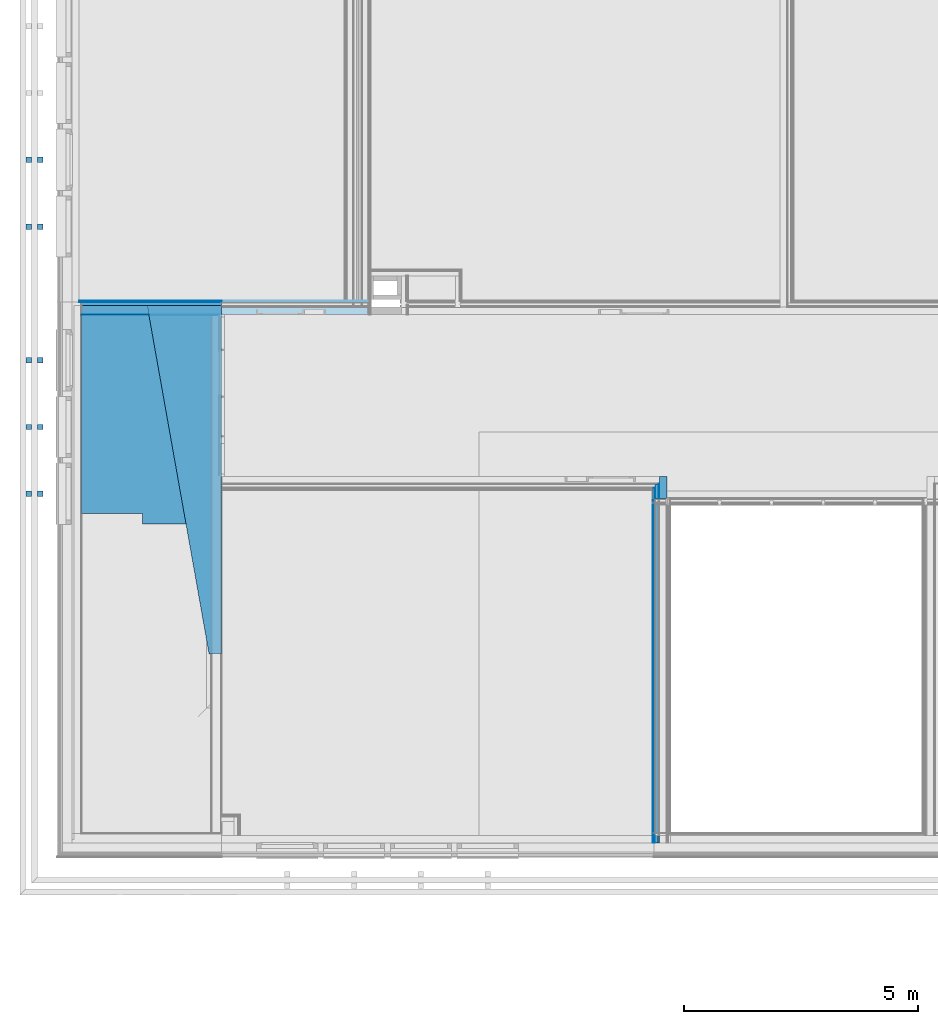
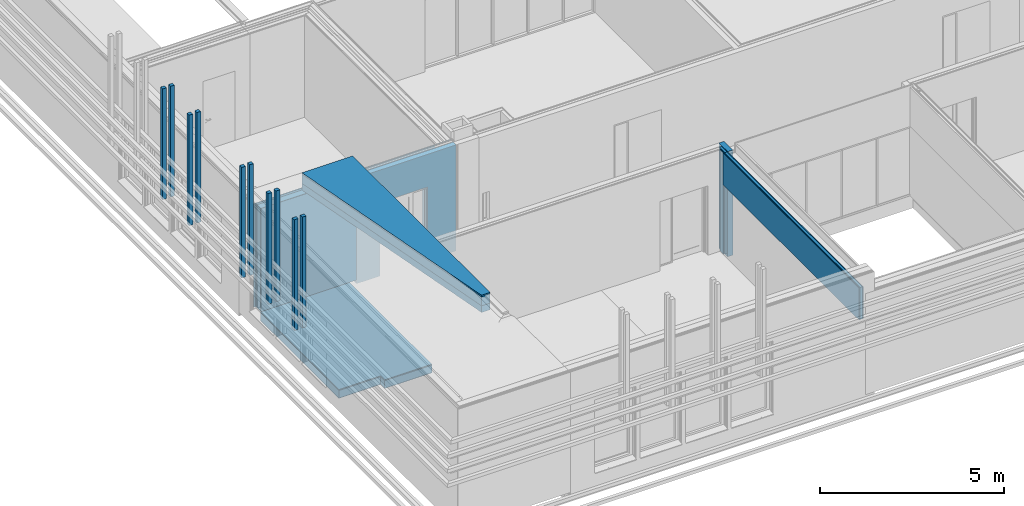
# One storey, part 82 of 139: 24 building element parts, 5 discrete accessories, 1 opening, 6 elements without a shape of their own, plus 2 elements that do not belong to this part.
"""IFC2X3 building model written with IfcOpenShell, lengths in millimetres."""

import ifcopenshell
import ifcopenshell.guid

model = None  # the IFC model being written
_history = None  # IfcOwnerHistory: only IFC2X3 demands one
_inside = {}  # id of a spatial element -> (the spatial element, [elements in it])
_under = {}  # id of a project, library or spatial element -> (it, [spatial elements below it])
_declared = {}  # id of a project -> (the project, [libraries it declares])
_typed = {}  # id of a type object -> (the type object, [elements of that type])
_made_of = {}  # id of a material, layer set ... -> (it, [elements and type objects made of it])


def new_model(schema):
    """Start an empty IFC model of exactly this schema.

    Asked for "IFC4X3", IfcOpenShell would pick the latest addendum, in which some entities
    have other attributes; the version numbers below select the first issue.
    IFC2X3 requires an IfcOwnerHistory on every rooted entity: one is made here for all.
    """
    global model, _history
    if schema == "IFC4X3":
        model = ifcopenshell.file(schema_version=(4, 3, 0, 0))
    else:
        model = ifcopenshell.file(schema=schema)
    _inside.clear()
    _under.clear()
    _declared.clear()
    _typed.clear()
    _made_of.clear()
    _history = None
    if model.schema == "IFC2X3":
        org = make("IfcOrganization", Name="unknown")
        user = make(
            "IfcPersonAndOrganization",
            ThePerson=make("IfcPerson", FamilyName="unknown"),
            TheOrganization=org,
        )
        app = make(
            "IfcApplication",
            ApplicationDeveloper=org,
            Version="unknown",
            ApplicationFullName="unknown",
            ApplicationIdentifier="unknown",
        )
        _history = make(
            "IfcOwnerHistory",
            OwningUser=user,
            OwningApplication=app,
            ChangeAction="ADDED",
            CreationDate=0,
        )
    return model


def make(cls, **values):
    """One entity of the class cls with the attributes given. An attribute that is None is left unset."""
    return model.create_entity(
        cls, **{name: value for name, value in values.items() if value is not None}
    )


def entity(cls, *values):
    """Any entity or typed value of the class cls, its attributes in the order of the schema. None: left unset."""
    e = model.create_entity(cls)
    for i, value in enumerate(values):
        if value is not None:
            e[i] = value
    return e


def rooted(cls, **values):
    """An entity with a GlobalId (a new one), such as an element, a storey or a relation."""
    return make(cls, GlobalId=ifcopenshell.guid.new(), OwnerHistory=_history, **values)


def si_unit(unit_type, name, prefix=None):
    """IfcSIUnit, for example si_unit("LENGTHUNIT", "METRE", prefix="MILLI")."""
    return make("IfcSIUnit", UnitType=unit_type, Prefix=prefix, Name=name)


def converted_unit(unit_type, name, factor, base, dimensions=None, offset=None):
    """IfcConversionBasedUnit, such as the inch: factor (a typed value) times the base unit."""
    return make(
        "IfcConversionBasedUnit"
        if offset is None
        else "IfcConversionBasedUnitWithOffset",
        ConversionOffset=offset,
        Dimensions=None
        if dimensions is None
        else entity("IfcDimensionalExponents", *dimensions),
        UnitType=unit_type,
        Name=name,
        ConversionFactor=make(
            "IfcMeasureWithUnit", ValueComponent=factor, UnitComponent=base
        ),
    )


def derived_unit(unit_type, elements):
    """IfcDerivedUnit: a product of units, each with its exponent."""
    return make(
        "IfcDerivedUnit",
        Elements=[
            make("IfcDerivedUnitElement", Unit=unit, Exponent=power)
            for unit, power in elements
        ],
        UnitType=unit_type,
    )


def money_unit(currency):
    """IfcMonetaryUnit."""
    return make("IfcMonetaryUnit", Currency=currency)


def assignment(units):
    """IfcUnitAssignment: the units of a project."""
    return None if units is None else make("IfcUnitAssignment", Units=units)


def point(xyz):
    """IfcCartesianPoint."""
    return None if xyz is None else make("IfcCartesianPoint", Coordinates=xyz)


def direction(xyz):
    """IfcDirection."""
    return None if xyz is None else make("IfcDirection", DirectionRatios=xyz)


def frame(location, z_axis=None, x_axis=None):
    """IfcAxis2Placement3D, a coordinate frame: its origin and axes. An axis left out is left unset."""
    return make(
        "IfcAxis2Placement3D",
        Location=point(location),
        Axis=direction(z_axis),
        RefDirection=direction(x_axis),
    )


def origin_with_axes():
    """The frame at (0, 0, 0) with the z axis (0, 0, 1) and the x axis (1, 0, 0) written out."""
    return frame((0.0, 0.0, 0.0), z_axis=(0.0, 0.0, 1.0), x_axis=(1.0, 0.0, 0.0))


def place(relative_to, where):
    """IfcLocalPlacement: puts the frame where relative to a parent placement (None: the world)."""
    return make(
        "IfcLocalPlacement", PlacementRelTo=relative_to, RelativePlacement=where
    )


def context(
    kind, dimensions, precision=None, world=None, true_north=None, identifier=None
):
    """IfcGeometricRepresentationContext, for example the 3D "Model" context."""
    return make(
        "IfcGeometricRepresentationContext",
        ContextIdentifier=identifier,
        ContextType=kind,
        CoordinateSpaceDimension=dimensions,
        Precision=precision,
        WorldCoordinateSystem=world,
        TrueNorth=true_north,
    )


def subcontext(parent, identifier, kind, view, scale=None):
    """IfcGeometricRepresentationSubContext, for example "Body" below "Model"."""
    return make(
        "IfcGeometricRepresentationSubContext",
        ContextIdentifier=identifier,
        ContextType=kind,
        ParentContext=parent,
        TargetScale=scale,
        TargetView=view,
    )


def project(units=None, contexts=None):
    """IfcProject with its units and contexts."""
    return rooted(
        "IfcProject",
        Name="project",
        RepresentationContexts=contexts,
        UnitsInContext=assignment(units),
    )


def spatial(cls, under=None, at=None, **own):
    """A site, building, storey or space (cls), placed at a placement, below another one or the project."""
    s = rooted(cls, ObjectPlacement=at, **own)
    if under is not None:
        _under.setdefault(under.id(), (under, []))[1].append(s)
    return s


def faces_of(points, faces, orient=None, outer=None):
    """IfcFace entities. A face is a list of loops; a loop is a list of indices into points, from 0.

    orient and outer hold one flag for each loop. By default every Orientation is true, the
    first loop of a face is its IfcFaceOuterBound and the others are IfcFaceBound.
    """
    made = []
    for i, loops in enumerate(faces):
        bounds = []
        for j, loop in enumerate(loops):
            is_outer = j == 0 if outer is None else outer[i][j]
            bounds.append(
                make(
                    "IfcFaceOuterBound" if is_outer else "IfcFaceBound",
                    Bound=make("IfcPolyLoop", Polygon=[points[k] for k in loop]),
                    Orientation=True if orient is None else orient[i][j],
                )
            )
        made.append(make("IfcFace", Bounds=bounds))
    return made


def faceted_brep(points, faces, orient=None, outer=None, voids=None):
    """IfcFacetedBrep: a solid bounded by flat faces; with voids (closed shells), ...WithVoids."""
    shared = [point(p) for p in points]
    hull = make("IfcClosedShell", CfsFaces=faces_of(shared, faces, orient, outer))
    if voids is None:
        return make("IfcFacetedBrep", Outer=hull)
    return make(
        "IfcFacetedBrepWithVoids",
        Outer=hull,
        Voids=[
            make(cls, CfsFaces=faces_of(shared, fs, o, b)) for cls, fs, o, b in voids
        ],
    )


def shape(context_of_items, identifier, shape_type, items):
    """IfcShapeRepresentation: the items that make up one representation, for example the "Body"."""
    return make(
        "IfcShapeRepresentation",
        ContextOfItems=context_of_items,
        RepresentationIdentifier=identifier,
        RepresentationType=shape_type,
        Items=items,
    )


def material(Name=None, Category=None):
    """IfcMaterial."""
    return make("IfcMaterial", Name=Name, Category=Category)


def material_list(materials):
    """IfcMaterialList."""
    return make("IfcMaterialList", Materials=materials)


def made_of(thing, what):
    """Note that an element or type object is made of a material, layer set ...; save() writes the relation."""
    if what is not None:
        _made_of.setdefault(what.id(), (what, []))[1].append(thing)
    return thing


def type_object(cls, material=None, **own):
    """A type object (cls), such as IfcWallType, which elements share."""
    return made_of(rooted(cls, **own), material)


def element(
    cls,
    number,
    at=None,
    inside=None,
    cuts=None,
    type_object=None,
    material=None,
    context=None,
    identifier="Body",
    shape_type=None,
    held_by="IfcProductDefinitionShape",
    body=None,
    shapes=None,
    **own,
):
    """One element of the class cls, such as IfcWall. Its Tag is "e" and its number.

    at: its placement. inside: the storey or other place that contains it. cuts: it is an
    opening in that element (IfcRelVoidsElement). A single representation is given by context,
    identifier, shape_type and body (its items); several are given by shapes. held_by: the class
    of the entity that holds the representations. save() writes the other relations.
    """
    e = rooted(cls, Tag="e%d" % number, ObjectPlacement=at, **own)
    if body is not None:
        shapes = [shape(context, identifier, shape_type, body)]
    if shapes is not None:
        e.Representation = make(held_by, Representations=shapes)
    if inside is not None:
        _inside.setdefault(inside.id(), (inside, []))[1].append(e)
    if cuts is not None:
        rooted(
            "IfcRelVoidsElement", RelatingBuildingElement=cuts, RelatedOpeningElement=e
        )
    if type_object is not None:
        _typed.setdefault(type_object.id(), (type_object, []))[1].append(e)
    return made_of(e, material)


def aggregate(whole, parts):
    """IfcRelAggregates: a whole, such as a stair, and the parts it consists of."""
    return rooted("IfcRelAggregates", RelatingObject=whole, RelatedObjects=parts)


def save(model, path):
    """Write the relations noted so far, then the file.

    IfcRelAggregates (storeys below a building ...), IfcRelContainedInSpatialStructure (elements
    in a storey), IfcRelDefinesByType, IfcRelAssociatesMaterial and IfcRelDeclares: one each for
    every whole, place, type object, material and project.
    """
    for whole, parts in _under.values():
        aggregate(whole, parts)
    for where, things in _inside.values():
        rooted(
            "IfcRelContainedInSpatialStructure",
            RelatedElements=things,
            RelatingStructure=where,
        )
    for kind, things in _typed.values():
        rooted("IfcRelDefinesByType", RelatedObjects=things, RelatingType=kind)
    for what, things in _made_of.values():
        rooted("IfcRelAssociatesMaterial", RelatedObjects=things, RelatingMaterial=what)
    for by, libraries in _declared.values():
        rooted("IfcRelDeclares", RelatingContext=by, RelatedDefinitions=libraries)
    model.write(path)


model = new_model("IFC2X3")

# Units and contexts
model_context = context("Model", 3, precision=0.01, world=origin_with_axes(), true_north=direction((0.0, 1.0)))
body_context = subcontext(model_context, "Body", "Model", "MODEL_VIEW")
ifc_project = project(units=[si_unit("LENGTHUNIT", "METRE", prefix="MILLI"), si_unit("AREAUNIT", "SQUARE_METRE"), si_unit("VOLUMEUNIT", "CUBIC_METRE"), converted_unit("PLANEANGLEUNIT", "DEGREE", entity("IfcPlaneAngleMeasure", 0.0174532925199), si_unit("PLANEANGLEUNIT", "RADIAN"), dimensions=[0, 0, 0, 0, 0, 0, 0]), money_unit("EUR"), converted_unit("TIMEUNIT", "Year", entity("IfcTimeMeasure", 31556926.0), si_unit("TIMEUNIT", "SECOND"), dimensions=[0, 0, 1, 0, 0, 0, 0]), si_unit("MASSUNIT", "GRAM", prefix="KILO"), si_unit("THERMODYNAMICTEMPERATUREUNIT", "DEGREE_CELSIUS"), si_unit("LUMINOUSINTENSITYUNIT", "LUMEN"), si_unit("ENERGYUNIT", "JOULE", prefix="MEGA"), derived_unit("THERMALCONDUCTANCEUNIT", [(si_unit("POWERUNIT", "WATT"), 1), (si_unit("LENGTHUNIT", "METRE"), -1), (si_unit("THERMODYNAMICTEMPERATUREUNIT", "KELVIN"), -1)]), derived_unit("SPECIFICHEATCAPACITYUNIT", [(si_unit("ENERGYUNIT", "JOULE"), 1), (si_unit("MASSUNIT", "GRAM", prefix="KILO"), -1), (si_unit("THERMODYNAMICTEMPERATUREUNIT", "KELVIN"), -1)]), derived_unit("MASSDENSITYUNIT", [(si_unit("MASSUNIT", "GRAM", prefix="KILO"), 1), (si_unit("VOLUMEUNIT", "CUBIC_METRE"), -1)])], contexts=[model_context])

# Site, building, storey
site_placement = place(None, origin_with_axes())
site = spatial("IfcSite", under=ifc_project, at=site_placement, Name="Kolde pst 67a", CompositionType="ELEMENT")
building_placement = place(site_placement, origin_with_axes())
building = spatial("IfcBuilding", under=site, at=building_placement, Name="Riigigümnaasium", CompositionType="ELEMENT")
storey_placement = place(building_placement, frame((0.0, 0.0, 4600.0), z_axis=(0.0, 0.0, 1.0), x_axis=(1.0, 0.0, 0.0)))
storey = spatial("IfcBuildingStorey", under=building, at=storey_placement, Name="2. korrus", CompositionType="ELEMENT", Elevation=4600.0)

# Discrete accessories
ifc_material_1 = material(Name="_VÄLISVIIMISTLUS - sõrmjätkatud puitprussid 120x115mm, liitekohad vähemärgatavad, Platowood sõrmjätkatud kuusk või samaväärne; eeltöödeldud tuletõkkevõõbaga, tuletundlikkus B-s1, d0, Woodsafe Exterior WFX™ või samaväärne; kinnitused vastavalt EK osale")
ifc_material_list = material_list([ifc_material_1, ifc_material_1])
discrete_accessory_type = type_object("IfcDiscreteAccessoryType", Name="1+paiksekaitse 3 370 x 115")
for number, where, z_axis, x_axis in (
    (1, (-1290.00746728, 62604.7586626, 2150.0), (0.0, 0.0, 1.0), (1.0, 0.0, 0.0)),
    (2, (-1290.00746728, 61174.7586626, 2150.0), (0.0, 0.0, 1.0), (1.0, 0.0, 0.0)),
    (3, (-1290.00746728, 58314.7586626, 2150.0), (0.0, 0.0, 1.0), (1.0, 0.0, 0.0)),
    (4, (-1290.00746728, 56884.7586626, 2150.0), (0.0, 0.0, 1.0), (1.0, 0.0, 0.0)),
    (5, (-1290.00746728, 55454.7586626, 2150.0), (0.0, 0.0, 1.0), (1.0, 0.0, 0.0)),
):
    element("IfcDiscreteAccessory", number, at=place(storey_placement, frame(where, z_axis=z_axis, x_axis=x_axis)), inside=storey, type_object=discrete_accessory_type, material=ifc_material_list, Name="Päikesevarjestus", context=body_context, shape_type="Brep", body=[
        faceted_brep([(467.0, 117.5, 0.0), (347.0, 117.5, 0.0), (347.0, 117.5, 3670.0), (467.0, 117.5, 3670.0), (467.0, 2.5, 0.0), (347.0, 2.5, 0.0), (347.0, 2.5, 3670.0), (467.0, 2.5, 3670.0)], [[[0, 1, 2, 3]], [[0, 4, 5, 1]], [[1, 5, 6, 2]], [[3, 2, 6, 7]], [[4, 0, 3, 7]], [[5, 4, 7, 6]]]),
        faceted_brep([(717.0, 117.5, 0.0), (597.0, 117.5, 0.0), (597.0, 117.5, 3670.0), (717.0, 117.5, 3670.0), (717.0, 2.5, 0.0), (597.0, 2.5, 0.0), (597.0, 2.5, 3670.0), (717.0, 2.5, 3670.0)], [[[0, 1, 2, 3]], [[0, 4, 5, 1]], [[1, 5, 6, 2]], [[3, 2, 6, 7]], [[4, 0, 3, 7]], [[5, 4, 7, 6]]]),
    ])

# Wall, building element parts
wall_type_1 = type_object("IfcWallType", Name="SS-CLT-16/1_vill75+krohv 52 dB 300", PredefinedType="NOTDEFINED")
wall_1_placement = place(storey_placement, frame((12779.9974942, 55889.9665764, -410.0), z_axis=(0.0, 0.0, 1.0), x_axis=(0.0, -1.0, 0.0)))
wall_1 = element("IfcWall", 6, at=wall_1_placement, inside=storey, type_object=wall_type_1, Name="Sisesein")
ifc_material_2 = material(Name="_KANDETARIND - CLT ristkihtliimpuit vastavalt EK osale, CLT paigaldusvuugid teibitakse ROTHOBLAAS teibiga")
building_element_part_1_placement = place(wall_1_placement, origin_with_axes())
building_element_part_1 = element("IfcBuildingElementPart", 7, at=building_element_part_1_placement, material=ifc_material_2, Name="_KANDETARIND - CLT ristkihtliimpuit vastavalt EK osale, CLT paigaldusvuugid teibitakse ROTHOBLAAS teibiga", context=body_context, shape_type="Brep", body=[
    faceted_brep([(0.0, -160.0, 3769.0), (0.0, 0.0, 3769.0), (0.0, 0.0, 280.0), (0.0, -160.0, 280.0), (475.026471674, 0.0, 3769.0), (475.026471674, -160.0, 3769.0), (475.026471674, 0.0, 280.0), (475.026471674, -160.0, 280.0)], [[[0, 1, 2, 3]], [[4, 1, 0, 5]], [[1, 4, 6, 2]], [[7, 3, 2, 6]], [[5, 0, 3, 7]], [[4, 5, 7, 6]]]),
])
ifc_material_3 = material(Name="_ÕHKVAHE")
building_element_part_2_placement = place(wall_1_placement, origin_with_axes())
building_element_part_2 = element("IfcBuildingElementPart", 8, at=building_element_part_2_placement, material=ifc_material_3, Name="_ÕHKVAHE", context=body_context, shape_type="Brep", body=[
    faceted_brep([(159.999488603, -175.0, 3769.0), (159.999532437, -160.0, 3769.0), (159.999532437, -160.0, 407.0), (159.999488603, -175.0, 407.0), (475.026471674, -160.0, 3769.0), (475.026471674, -175.0, 3769.0), (475.026471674, -160.0, 407.0), (475.026471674, -175.0, 407.0)], [[[0, 1, 2, 3]], [[4, 1, 0, 5]], [[1, 4, 6, 2]], [[7, 3, 2, 6]], [[5, 0, 3, 7]], [[4, 5, 7, 6]]]),
])
ifc_material_4 = material(Name="_KARKASS - metallkarkass CW 75/50/06 ja UW 75/40/06, samm 600, vahel mineraalvill, helineeldetegur αw = 1.0,  ISOVER ACOUSTIC 75mm või samaväärne")
building_element_part_3_placement = place(wall_1_placement, origin_with_axes())
building_element_part_3 = element("IfcBuildingElementPart", 9, at=building_element_part_3_placement, material=ifc_material_4, Name="_KARKASS - metallkarkass CW 75/50/06 ja UW 75/40/06, samm 600, vahel mineraalvill, helineeldetegur αw = 1.0,  ISOVER ACOUSTIC 75mm või samaväärne", context=body_context, shape_type="Brep", body=[
    faceted_brep([(174.999269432, -250.0, 3769.0), (174.999488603, -175.0, 3769.0), (174.999488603, -175.0, 407.0), (174.999269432, -250.0, 407.0), (475.026471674, -175.0, 3769.0), (475.026471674, -250.0, 3769.0), (475.026471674, -175.0, 407.0), (475.026471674, -250.0, 407.0)], [[[0, 1, 2, 3]], [[4, 1, 0, 5]], [[1, 4, 6, 2]], [[7, 3, 2, 6]], [[5, 0, 3, 7]], [[4, 5, 7, 6]]]),
])
ifc_material_5 = material(Name="_PLAATMATERJAL - OSB3 plaat")
building_element_part_4_placement = place(wall_1_placement, origin_with_axes())
building_element_part_4 = element("IfcBuildingElementPart", 10, at=building_element_part_4_placement, material=ifc_material_5, Name="_PLAATMATERJAL - OSB3 plaat", context=body_context, shape_type="Brep", body=[
    faceted_brep([(249.99924021, -260.0, 3769.0), (249.999269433, -250.0, 3769.0), (249.999269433, -250.0, 407.0), (249.99924021, -260.0, 407.0), (475.026471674, -250.0, 3769.0), (475.026471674, -260.0, 3769.0), (475.026471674, -250.0, 407.0), (475.026471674, -260.0, 407.0)], [[[0, 1, 2, 3]], [[4, 1, 0, 5]], [[1, 4, 6, 2]], [[7, 3, 2, 6]], [[5, 0, 3, 7]], [[4, 5, 7, 6]]]),
])
ifc_material_6 = material(Name="_PLAATMATERJAL - tuletõkkekipsplaat, Knauf Red GKF või samaväärne")
building_element_part_5_placement = place(wall_1_placement, origin_with_axes())
building_element_part_5 = element("IfcBuildingElementPart", 11, at=building_element_part_5_placement, material=ifc_material_6, Name="_PLAATMATERJAL - tuletõkkekipsplaat, Knauf Red GKF või samaväärne", context=body_context, shape_type="Brep", body=[
    faceted_brep([(259.999196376, -275.0, 3769.0), (259.99924021, -260.0, 3769.0), (259.99924021, -260.0, 407.0), (259.999196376, -275.0, 407.0), (475.026471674, -260.0, 3769.0), (475.026471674, -275.0, 3769.0), (475.026471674, -260.0, 407.0), (475.026471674, -275.0, 407.0)], [[[0, 1, 2, 3]], [[4, 1, 0, 5]], [[1, 4, 6, 2]], [[7, 3, 2, 6]], [[5, 0, 3, 7]], [[4, 5, 7, 6]]]),
])
building_element_part_6_placement = place(wall_1_placement, origin_with_axes())
building_element_part_6 = element("IfcBuildingElementPart", 12, at=building_element_part_6_placement, material=ifc_material_6, Name="_PLAATMATERJAL - tuletõkkekipsplaat, Knauf Red GKF või samaväärne", context=body_context, shape_type="Brep", body=[
    faceted_brep([(274.999152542, -290.0, 3769.0), (274.999196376, -275.0, 3769.0), (274.999196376, -275.0, 407.0), (274.999152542, -290.0, 407.0), (475.026471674, -275.0, 3769.0), (475.026471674, -290.0, 3769.0), (475.026471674, -275.0, 407.0), (475.026471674, -290.0, 407.0)], [[[0, 1, 2, 3]], [[4, 1, 0, 5]], [[1, 4, 6, 2]], [[7, 3, 2, 6]], [[5, 0, 3, 7]], [[4, 5, 7, 6]]]),
])
aggregate(wall_1, [building_element_part_1, building_element_part_2, building_element_part_3, building_element_part_4, building_element_part_5, building_element_part_6])

wall_type_2 = type_object("IfcWallType", Name="SS-RB-20/11_kipsil krohv+roov60 +krohv 310", PredefinedType="NOTDEFINED")
wall_2_placement = place(storey_placement, frame((3250.03768339, 59349.9979478, 0.0), z_axis=(0.0, 0.0, 1.0), x_axis=(-1.0, 0.0, 0.0)))
wall_2 = element("IfcWall", 13, at=wall_2_placement, inside=storey, type_object=wall_type_2, Name="Sisesein")
ifc_material_7 = material(Name="_VIIMISTLUSKIHT - viimistlus vastavalt SA osale")
building_element_part_7_placement = place(wall_2_placement, origin_with_axes())
building_element_part_7 = element("IfcBuildingElementPart", 14, at=building_element_part_7_placement, material=ifc_material_7, Name="_VIIMISTLUSKIHT - viimistlus vastavalt SA osale", context=body_context, shape_type="Brep", body=[
    faceted_brep([(2999.98132511, 0.0, 0.0), (2999.98132511, 0.0, 3420.0), (0.0, 0.0, 3420.0), (0.0, 0.0, 0.0), (2999.98132511, 10.0, 3420.0), (2999.98132511, 10.0, 0.0), (0.0, 10.0, 3420.0), (0.0, 10.0, 0.0)], [[[0, 1, 2, 3]], [[4, 1, 0, 5]], [[1, 4, 6, 2]], [[6, 7, 3, 2]], [[5, 0, 3, 7]], [[4, 5, 7, 6]]]),
])
ifc_material_8 = material(Name="_KANDETARIND - monteeritav raudbetoon vastavalt EK osale")
building_element_part_8_placement = place(wall_2_placement, origin_with_axes())
building_element_part_8 = element("IfcBuildingElementPart", 15, at=building_element_part_8_placement, material=ifc_material_8, Name="_KANDETARIND - monteeritav raudbetoon vastavalt EK osale", context=body_context, shape_type="Brep", body=[
    faceted_brep([(2999.98132511, -200.0, 0.0), (2999.98132511, -200.0, 3420.0), (0.0, -200.0, 3420.0), (0.0, -200.0, 0.0), (2999.98132511, 0.0, 3420.0), (2999.98132511, 0.0, 0.0), (0.0, 0.0, 3420.0), (0.0, 0.0, 0.0)], [[[0, 1, 2, 3]], [[4, 1, 0, 5]], [[1, 4, 6, 2]], [[6, 7, 3, 2]], [[5, 0, 3, 7]], [[4, 5, 7, 6]]]),
])
ifc_material_9 = material(Name="_KARKASS - metallkarkass CW 66/35/06, samm 600, mineraalvill karkassi vahel")
building_element_part_9_placement = place(wall_2_placement, origin_with_axes())
building_element_part_9 = element("IfcBuildingElementPart", 16, at=building_element_part_9_placement, material=ifc_material_9, Name="_KARKASS - metallkarkass CW 66/35/06, samm 600, mineraalvill karkassi vahel", context=body_context, shape_type="Brep", body=[
    faceted_brep([(2999.98132511, -266.0, 0.0), (2999.98132511, -266.0, 3420.0), (0.0, -266.0, 3420.0), (0.0, -266.0, 0.0), (2999.98132511, -200.0, 3420.0), (2999.98132511, -200.0, 0.0), (0.0, -200.0, 3420.0), (0.0, -200.0, 0.0)], [[[0, 1, 2, 3]], [[4, 1, 0, 5]], [[1, 4, 6, 2]], [[6, 7, 3, 2]], [[5, 0, 3, 7]], [[4, 5, 7, 6]]]),
])
building_element_part_10_placement = place(wall_2_placement, origin_with_axes())
building_element_part_10 = element("IfcBuildingElementPart", 17, at=building_element_part_10_placement, material=ifc_material_5, Name="_PLAATMATERJAL - OSB3 plaat", context=body_context, shape_type="Brep", body=[
    faceted_brep([(3049.98132511, -270.0, 3420.0), (2999.98132511, -270.0, 3420.0), (2999.98132511, -266.0, 3420.0), (0.0, -266.0, 3420.0), (0.0, -278.5, 3420.0), (3049.98132511, -278.5, 3420.0), (3049.98132511, -270.0, 0.0), (2999.98132511, -270.0, 0.0), (2999.98132511, -266.0, 0.0), (0.0, -266.0, 0.0), (0.0, -278.5, 0.0), (3049.98132511, -278.5, 0.0)], [[[0, 1, 2, 3, 4, 5]], [[1, 0, 6, 7]], [[2, 1, 7, 8]], [[2, 8, 9, 3]], [[3, 9, 10, 4]], [[10, 11, 5, 4]], [[6, 0, 5, 11]], [[6, 11, 10, 9, 8, 7]]]),
])
building_element_part_11_placement = place(wall_2_placement, origin_with_axes())
building_element_part_11 = element("IfcBuildingElementPart", 18, at=building_element_part_11_placement, material=ifc_material_6, Name="_PLAATMATERJAL - tuletõkkekipsplaat, Knauf Red GKF või samaväärne", context=body_context, shape_type="Brep", body=[
    faceted_brep([(3049.98132511, -278.5, 0.0), (3049.98132511, -291.0, 0.0), (0.0, -291.0, 0.0), (0.0, -278.5, 0.0), (3049.98132511, -278.5, 3420.0), (3049.98132511, -291.0, 3420.0), (0.0, -291.0, 3420.0), (0.0, -278.5, 3420.0)], [[[0, 1, 2, 3]], [[0, 4, 5, 1]], [[1, 5, 6, 2]], [[3, 2, 6, 7]], [[4, 0, 3, 7]], [[5, 4, 7, 6]]]),
])
building_element_part_12_placement = place(wall_2_placement, origin_with_axes())
building_element_part_12 = element("IfcBuildingElementPart", 19, at=building_element_part_12_placement, material=ifc_material_7, Name="_VIIMISTLUSKIHT - viimistlus vastavalt SA osale", context=body_context, shape_type="Brep", body=[
    faceted_brep([(3049.98132511, -291.0, 0.0), (3049.98132511, -300.0, 0.0), (0.0, -300.0, 0.0), (0.0, -291.0, 0.0), (3049.98132511, -291.0, 3420.0), (3049.98132511, -300.0, 3420.0), (0.0, -300.0, 3420.0), (0.0, -291.0, 3420.0)], [[[0, 1, 2, 3]], [[0, 4, 5, 1]], [[1, 5, 6, 2]], [[3, 2, 6, 7]], [[4, 0, 3, 7]], [[5, 4, 7, 6]]]),
])
aggregate(wall_2, [building_element_part_7, building_element_part_8, building_element_part_9, building_element_part_10, building_element_part_11, building_element_part_12])

# Slab, building element parts
slab_type_1 = type_object("IfcSlabType", Name="VL-RB-25/1_+puitkilp trepikodades 290", PredefinedType="NOTDEFINED")
slab_1_placement = place(storey_placement, frame((3029.64575088, 59349.9979478, 0.0), z_axis=(0.0, 0.0, 1.0), x_axis=(1.0, 0.0, 0.0)))
slab_1 = element("IfcSlab", 20, at=slab_1_placement, inside=storey, type_object=slab_type_1, Name="VAHELAGI", PredefinedType="NOTDEFINED")
building_element_part_13_placement = place(slab_1_placement, origin_with_axes())
building_element_part_13 = element("IfcBuildingElementPart", 21, at=building_element_part_13_placement, material=ifc_material_7, Name="_VIIMISTLUSKIHT - viimistlus vastavalt SA osale", context=body_context, shape_type="Brep", body=[
    faceted_brep([(-2789.64575088, 0.0, -30.0), (-2789.64575088, 0.0, 0.0), (0.0, 0.0, 0.0), (0.0, 0.0, -30.0), (-2789.64575088, -4260.03682836, -30.0), (-2789.64575088, -4260.03682836, 0.0), (-1479.5893926, -4260.03682836, 0.0), (-1479.5893926, -4480.03682836, 0.0), (0.0, -4480.03682836, 0.0), (0.0, -4480.03682836, -30.0), (-1479.5893926, -4480.03682836, -30.0), (-1479.5893926, -4260.03682836, -30.0)], [[[0, 1, 2, 3]], [[4, 5, 1, 0]], [[2, 1, 5, 6, 7, 8]], [[3, 2, 8, 9]], [[3, 9, 10, 11, 4, 0]], [[11, 6, 5, 4]], [[10, 7, 6, 11]], [[9, 8, 7, 10]]]),
])
building_element_part_14_placement = place(slab_1_placement, origin_with_axes())
building_element_part_14 = element("IfcBuildingElementPart", 22, at=building_element_part_14_placement, material=ifc_material_8, Name="_KANDETARIND - monteeritav raudbetoon vastavalt EK osale", context=body_context, shape_type="Brep", body=[
    faceted_brep([(-2789.64575088, 0.0, -280.0), (-2789.64575088, 0.0, -30.0), (0.0, 0.0, -30.0), (0.0, 0.0, -280.0), (-2789.64575088, -4260.03682836, -280.0), (-2789.64575088, -4260.03682836, -30.0), (-1479.5893926, -4260.03682836, -30.0), (-1479.5893926, -4480.03682836, -30.0), (0.0, -4480.03682836, -30.0), (0.0, -4480.03682836, -280.0), (-1479.5893926, -4480.03682836, -280.0), (-1479.5893926, -4260.03682836, -280.0)], [[[0, 1, 2, 3]], [[4, 5, 1, 0]], [[2, 1, 5, 6, 7, 8]], [[3, 2, 8, 9]], [[3, 9, 10, 11, 4, 0]], [[11, 6, 5, 4]], [[10, 7, 6, 11]], [[9, 8, 7, 10]]]),
])
building_element_part_15_placement = place(slab_1_placement, origin_with_axes())
building_element_part_15 = element("IfcBuildingElementPart", 23, at=building_element_part_15_placement, material=ifc_material_7, Name="_VIIMISTLUSKIHT - viimistlus vastavalt SA osale", context=body_context, shape_type="Brep", body=[
    faceted_brep([(-2789.5893926, 0.0, -290.0), (-2789.5893926, 0.0, -280.0), (0.0, 0.0, -280.0), (0.0, 0.0, -290.0), (-2789.5893926, -4260.03682836, -280.0), (-2789.5893926, -4260.03682836, -290.0), (-1479.5893926, -4260.03682836, -280.0), (-1479.5893926, -4480.03682836, -280.0), (0.0, -4480.03682836, -280.0), (0.0, -4480.03682836, -290.0), (-1479.5893926, -4480.03682836, -290.0), (-1479.5893926, -4260.03682836, -290.0)], [[[0, 1, 2, 3]], [[4, 1, 0, 5]], [[1, 4, 6, 7, 8, 2]], [[8, 9, 3, 2]], [[5, 0, 3, 9, 10, 11]], [[4, 5, 11, 6]], [[6, 11, 10, 7]], [[7, 10, 9, 8]]]),
])
aggregate(slab_1, [building_element_part_13, building_element_part_14, building_element_part_15])

# Wall, building element parts
wall_type_3 = type_object("IfcWallType", Name="SS-CLT-16/11_ak. plaat50+vineer12+distansliist18+CLT+vill75+krohv 380", PredefinedType="NOTDEFINED")
wall_3_placement = place(storey_placement, frame((12859.9974942, 55414.9401047, 2300.0), z_axis=(0.0, 0.0, 1.0), x_axis=(0.0, -1.0, 0.0)))
wall_3 = element("IfcWall", 24, at=wall_3_placement, inside=storey, type_object=wall_type_3, Name="Sisesein")
building_element_part_16_placement = place(wall_3_placement, origin_with_axes())
building_element_part_16 = element("IfcBuildingElementPart", 25, at=building_element_part_16_placement, material=ifc_material_3, Name="_ÕHKVAHE", context=body_context, shape_type="Brep", body=[
    faceted_brep([(0.0, -265.0, 1059.0), (0.0, -240.0, 1059.0), (0.0, -240.0, 0.0), (0.0, -265.0, 0.0), (7374.0, -240.0, 1059.0), (7374.0, -265.0, 1059.0), (7374.0, -240.0, 0.0), (7374.0, -265.0, 0.0)], [[[0, 1, 2, 3]], [[4, 1, 0, 5]], [[1, 4, 6, 2]], [[2, 6, 7, 3]], [[5, 0, 3, 7]], [[4, 5, 7, 6]]]),
])
building_element_part_17_placement = place(wall_3_placement, origin_with_axes())
building_element_part_17 = element("IfcBuildingElementPart", 26, at=building_element_part_17_placement, material=ifc_material_4, Name="_KARKASS - metallkarkass CW 75/50/06 ja UW 75/40/06, samm 600, vahel mineraalvill, helineeldetegur αw = 1.0,  ISOVER ACOUSTIC 75mm või samaväärne", context=body_context, shape_type="Brep", body=[
    faceted_brep([(0.0, -340.0, 1059.0), (0.0, -265.0, 1059.0), (0.0, -265.0, 0.0), (0.0, -340.0, 0.0), (7374.0, -265.0, 1059.0), (7374.0, -340.0, 1059.0), (7374.0, -265.0, 0.0), (7374.0, -340.0, 0.0)], [[[0, 1, 2, 3]], [[4, 1, 0, 5]], [[1, 4, 6, 2]], [[2, 6, 7, 3]], [[5, 0, 3, 7]], [[4, 5, 7, 6]]]),
])
building_element_part_18_placement = place(wall_3_placement, origin_with_axes())
building_element_part_18 = element("IfcBuildingElementPart", 27, at=building_element_part_18_placement, material=ifc_material_6, Name="_PLAATMATERJAL - tuletõkkekipsplaat, Knauf Red GKF või samaväärne", context=body_context, shape_type="Brep", body=[
    faceted_brep([(0.0, -355.0, 1059.0), (0.0, -340.0, 1059.0), (0.0, -340.0, 0.0), (0.0, -355.0, 0.0), (7374.0, -340.0, 1059.0), (7374.0, -355.0, 1059.0), (7374.0, -340.0, 0.0), (7374.0, -355.0, 0.0)], [[[0, 1, 2, 3]], [[4, 1, 0, 5]], [[1, 4, 6, 2]], [[2, 6, 7, 3]], [[5, 0, 3, 7]], [[4, 5, 7, 6]]]),
])
building_element_part_19_placement = place(wall_3_placement, origin_with_axes())
building_element_part_19 = element("IfcBuildingElementPart", 28, at=building_element_part_19_placement, material=ifc_material_6, Name="_PLAATMATERJAL - tuletõkkekipsplaat, Knauf Red GKF või samaväärne", context=body_context, shape_type="Brep", body=[
    faceted_brep([(0.0, -370.0, 1059.0), (0.0, -355.0, 1059.0), (0.0, -355.0, 0.0), (0.0, -370.0, 0.0), (7374.0, -355.0, 1059.0), (7374.0, -370.0, 1059.0), (7374.0, -355.0, 0.0), (7374.0, -370.0, 0.0)], [[[0, 1, 2, 3]], [[4, 1, 0, 5]], [[1, 4, 6, 2]], [[2, 6, 7, 3]], [[5, 0, 3, 7]], [[4, 5, 7, 6]]]),
])
building_element_part_20_placement = place(wall_3_placement, origin_with_axes())
building_element_part_20 = element("IfcBuildingElementPart", 29, at=building_element_part_20_placement, material=ifc_material_7, Name="_VIIMISTLUSKIHT - viimistlus vastavalt SA osale", context=body_context, shape_type="Brep", body=[
    faceted_brep([(0.0, -380.0, 1059.0), (0.0, -370.0, 1059.0), (0.0, -370.0, 0.0), (0.0, -380.0, 0.0), (7374.0, -370.0, 1059.0), (7374.0, -380.0, 1059.0), (7374.0, -370.0, 0.0), (7374.0, -380.0, 0.0)], [[[0, 1, 2, 3]], [[4, 1, 0, 5]], [[1, 4, 6, 2]], [[2, 6, 7, 3]], [[5, 0, 3, 7]], [[4, 5, 7, 6]]]),
])
aggregate(wall_3, [building_element_part_16, building_element_part_17, building_element_part_18, building_element_part_19, building_element_part_20])

# Slab, building element parts
slab_type_2 = type_object("IfcSlabType", PredefinedType="ROOF")
slab_2_placement = place(storey_placement, frame((240.02813819, 59549.9979478, 3420.0), z_axis=(0.0, 0.0, 1.0), x_axis=(1.0, 0.0, 0.0)))
slab_2 = element("IfcSlab", 30, at=slab_2_placement, inside=storey, type_object=slab_type_2, Name="Lamekatus", PredefinedType="ROOF")
ifc_material_10 = material(Name="_SOOJUSTUS - jäik mineraalvillaplaat, vastavalt RIL 107-2012-le, R3, survetugevus min 60kPa, soojuserijuhtivus λD<0,037 W/(mK), ISOVER OL-TOP või samaväärne")
building_element_part_21_placement = place(slab_2_placement, origin_with_axes())
building_element_part_21 = element("IfcBuildingElementPart", 31, at=building_element_part_21_placement, material=ifc_material_10, Name="_SOOJUSTUS - jäik mineraalvillaplaat, vastavalt RIL 107-2012-le, R3, survetugevus min 60kPa, soojuserijuhtivus λD<0,037 W/(mK), ISOVER OL-TOP või samaväärne", context=body_context, shape_type="Brep", body=[
    faceted_brep([(3009.9122688, -7464.84557188, 521.0), (3009.9122688, -7464.84557188, 571.0), (2740.32281858, -7464.84564316, 571.0), (2740.32281858, -7464.84564316, 521.0), (3009.9122688, 0.0, 521.0), (3009.9122688, 0.0, 571.0), (1414.87456695, 0.0, 571.0), (1414.87456695, 0.0, 521.0)], [[[0, 1, 2, 3]], [[4, 5, 1, 0]], [[2, 1, 5, 6]], [[3, 2, 6, 7]], [[3, 7, 4, 0]], [[7, 6, 5, 4]]]),
])
ifc_material_11 = material(Name="_SOOJUSTUS - mineraalvillaplaat, survetugevus min 60kPa, soojuserijuhtivus λD<0,037 W/(mK), ISOVER OL-P või samaväärne")
building_element_part_22_placement = place(slab_2_placement, origin_with_axes())
building_element_part_22 = element("IfcBuildingElementPart", 32, at=building_element_part_22_placement, material=ifc_material_11, Name="_SOOJUSTUS - mineraalvillaplaat, survetugevus min 60kPa, soojuserijuhtivus λD<0,037 W/(mK), ISOVER OL-P või samaväärne", context=body_context, shape_type="Brep", body=[
    faceted_brep([(3009.9122688, -7464.84557188, 221.0), (3009.9122688, -7464.84557188, 521.0), (2740.32281858, -7464.84564316, 521.0), (2740.32281858, -7464.84564316, 221.0), (3009.9122688, 0.0, 221.0), (3009.9122688, 0.0, 521.0), (1414.87456695, 0.0, 521.0), (1414.87456695, 0.0, 221.0)], [[[0, 1, 2, 3]], [[4, 5, 1, 0]], [[2, 1, 5, 6]], [[3, 2, 6, 7]], [[3, 7, 4, 0]], [[7, 6, 5, 4]]]),
])
ifc_material_12 = material(Name="_AURUTÕKE - külmkleebitav aurutõkkekile Bytum 400 või samaväärne")
building_element_part_23_placement = place(slab_2_placement, origin_with_axes())
building_element_part_23 = element("IfcBuildingElementPart", 33, at=building_element_part_23_placement, material=ifc_material_12, Name="_AURUTÕKE - külmkleebitav aurutõkkekile Bytum 400 või samaväärne", context=body_context, shape_type="Brep", body=[
    faceted_brep([(3009.9122688, -7464.84557188, 220.0), (3009.9122688, -7464.84557188, 221.0), (2740.32281858, -7464.84564316, 221.0), (2740.32281858, -7464.84564316, 220.0), (3009.9122688, 0.0, 220.0), (3009.9122688, 0.0, 221.0), (1414.87456695, 0.0, 221.0), (1414.87456695, 0.0, 220.0)], [[[0, 1, 2, 3]], [[4, 5, 1, 0]], [[2, 1, 5, 6]], [[3, 2, 6, 7]], [[3, 7, 4, 0]], [[7, 6, 5, 4]]]),
])
ifc_material_13 = material(Name="_KANDETARIND - raudbetoon C25/30 vastavalt EK osale")
building_element_part_24_placement = place(slab_2_placement, origin_with_axes())
building_element_part_24 = element("IfcBuildingElementPart", 34, at=building_element_part_24_placement, material=ifc_material_13, Name="_KANDETARIND - raudbetoon C25/30 vastavalt EK osale", context=body_context, shape_type="Brep", body=[
    faceted_brep([(2740.32281858, -7464.84564316, 0.0), (3009.9122688, -7464.84557188, 0.0), (3009.9122688, -7464.84557188, 220.0), (2740.32281858, -7464.84564316, 220.0), (1414.87456695, 0.0, 0.0), (3009.9122688, 0.0, 0.0), (3009.9122688, 0.0, 220.0), (1414.87456695, 0.0, 220.0)], [[[0, 1, 2, 3]], [[0, 4, 5, 1]], [[1, 5, 6, 2]], [[3, 2, 6, 7]], [[4, 0, 3, 7]], [[5, 4, 7, 6]]]),
])
aggregate(slab_2, [building_element_part_21, building_element_part_22, building_element_part_23, building_element_part_24])

# Wall, opening, building element parts
wall_4_placement = place(storey_placement, frame((6376.99872362, 59349.9979478, -130.0), z_axis=(0.0, 0.0, 1.0), x_axis=(-1.0, 0.0, 0.0)))
wall_4 = element("IfcWall", 35, at=wall_4_placement, inside=storey, type_object=wall_type_1, Name="Sisesein")
opening_placement = place(wall_4_placement, frame((1642.00042249, 0.0, 130.0), z_axis=(0.0, 0.0, 1.0), x_axis=(1.0, 0.0, 0.0)))
element("IfcOpeningElement", 36, at=opening_placement, cuts=wall_4, Name="Siseuks", context=body_context, shape_type="Brep", body=[
    faceted_brep([(750.0, -300.0, 2300.0), (750.0, -300.0, 0.0), (750.0, 600.0, 0.0), (750.0, 600.0, 2300.0), (-750.0, -300.0, 2300.0), (-750.0, -300.0, 0.0), (-750.0, 600.0, 0.0), (-750.0, 600.0, 2300.0)], [[[0, 1, 2, 3]], [[0, 4, 5, 1]], [[1, 5, 6, 2]], [[3, 2, 6, 7]], [[4, 0, 3, 7]], [[5, 4, 7, 6]]]),
])
building_element_part_25_placement = place(wall_4_placement, origin_with_axes())
building_element_part_25 = element("IfcBuildingElementPart", 37, at=building_element_part_25_placement, material=ifc_material_2, Name="_KANDETARIND - CLT ristkihtliimpuit vastavalt EK osale, CLT paigaldusvuugid teibitakse ROTHOBLAAS teibiga", context=body_context, shape_type="Brep", body=[
    faceted_brep([(2392.00042249, -160.0, 2430.0), (2392.00042249, -160.0, 130.0), (2392.00042249, -160.0, 0.0), (3126.96104022, -160.0, 0.0), (3126.96104022, -160.0, 3510.0), (0.0, -160.0, 3510.0), (0.0, -160.0, 0.0), (892.000422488, -160.0, 0.0), (892.000422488, -160.0, 130.0), (892.000422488, -160.0, 2430.0), (2392.00042249, 0.0, 2430.0), (2392.00042249, 0.0, 130.0), (2392.00042249, 0.0, 0.0), (3126.96104022, 0.0, 0.0), (3126.96104022, 0.0, 3510.0), (0.0, 0.0, 3510.0), (0.0, 0.0, 0.0), (892.000422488, 0.0, 0.0), (892.000422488, 0.0, 130.0), (892.000422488, 0.0, 2430.0)], [[[0, 1, 2, 3, 4, 5, 6, 7, 8, 9]], [[1, 0, 10, 11]], [[1, 11, 12, 2]], [[12, 13, 3, 2]], [[4, 3, 13, 14]], [[4, 14, 15, 5]], [[5, 15, 16, 6]], [[7, 6, 16, 17]], [[18, 8, 7, 17]], [[9, 8, 18, 19]], [[0, 9, 19, 10]], [[19, 18, 17, 16, 15, 14, 13, 12, 11, 10]]]),
])
building_element_part_26_placement = place(wall_4_placement, origin_with_axes())
building_element_part_26 = element("IfcBuildingElementPart", 38, at=building_element_part_26_placement, material=ifc_material_7, Name="_VIIMISTLUSKIHT - viimistlus vastavalt SA osale", context=body_context, shape_type="Brep", body=[
    faceted_brep([(2392.00042249, -300.0, 2430.0), (2392.00042249, -300.0, 130.0), (3126.96104022, -300.0, 130.0), (3126.96104022, -300.0, 3510.0), (0.0, -300.0, 3510.0), (0.0, -300.0, 3509.00001076), (487.000154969, -300.0, 3509.00001076), (487.000155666, -300.0, 130.0), (892.000422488, -300.0, 130.0), (892.000422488, -300.0, 2430.0), (2392.00042249, -290.0, 2430.0), (2392.00042249, -290.0, 130.0), (3126.96104022, -290.0, 130.0), (3126.96104022, -290.0, 3510.0), (0.0, -290.0, 3510.0), (0.0, -290.0, 3509.00001076), (487.0001439, -290.0, 3509.00001076), (487.000144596, -290.0, 130.0), (892.000422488, -290.0, 130.0), (892.000422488, -290.0, 2430.0)], [[[0, 1, 2, 3, 4, 5, 6, 7, 8, 9]], [[1, 0, 10, 11]], [[1, 11, 12, 2]], [[12, 13, 3, 2]], [[4, 3, 13, 14]], [[15, 5, 4, 14]], [[15, 16, 6, 5]], [[7, 6, 16, 17]], [[18, 8, 7, 17]], [[9, 8, 18, 19]], [[0, 9, 19, 10]], [[19, 18, 17, 16, 15, 14, 13, 12, 11, 10]]]),
])
aggregate(wall_4, [building_element_part_25, building_element_part_26])

save(model, "model.ifc")
